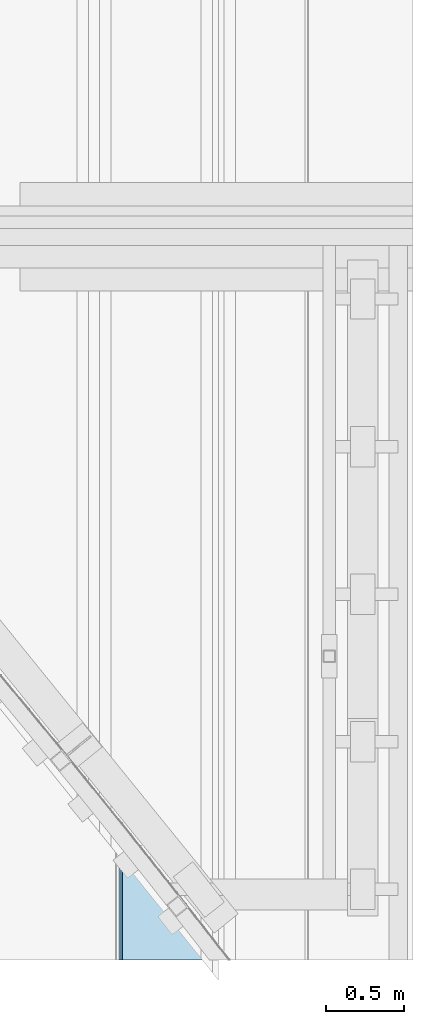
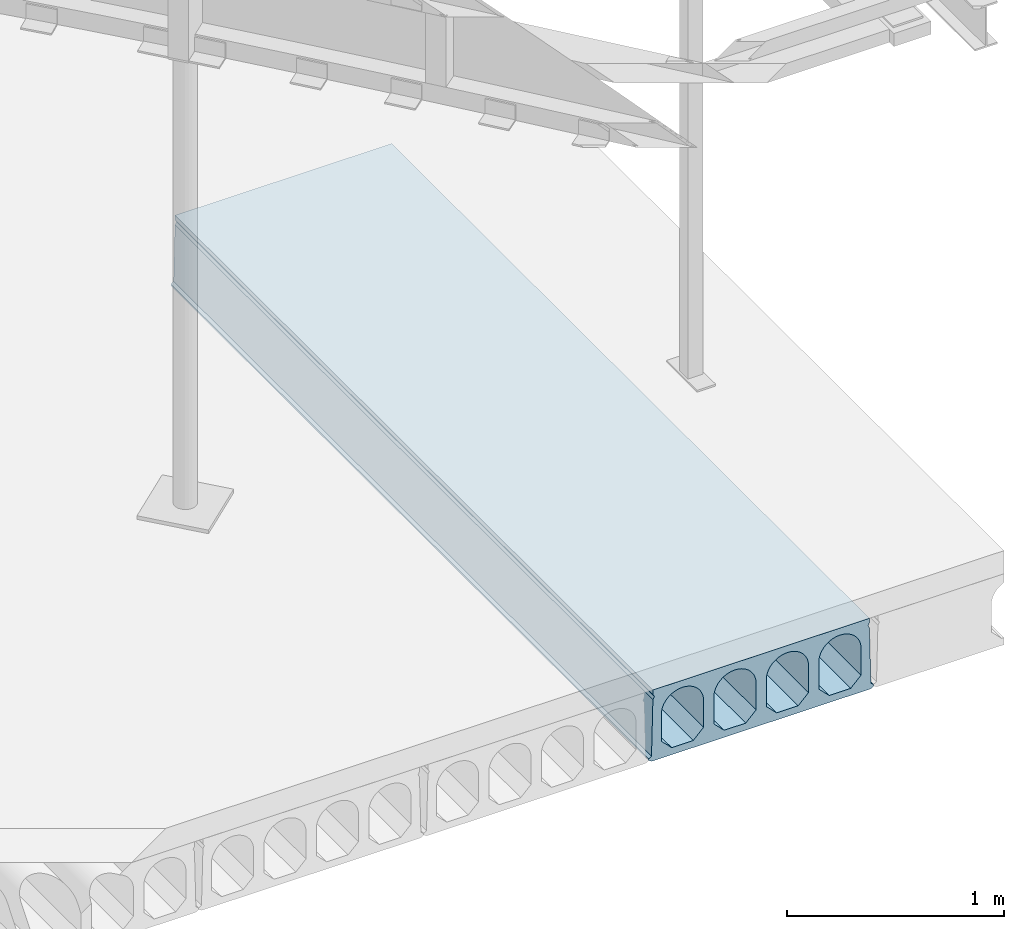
# One storey, part 72 of 98: 1 slab.
"""IFC2X3 building model written with IfcOpenShell, lengths in millimetres."""

from ifc_helpers import new_model, entity, si_unit, converted_unit, derived_unit, direction, frame, origin_with_axes, place, context, subcontext, project, spatial, faceted_brep, type_object, element, save


model = new_model("IFC2X3")

# Units and contexts
model_context = context("Model", 3, precision=0.01, world=frame((0.0, 4.29681676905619e-09, 0.0)), true_north=direction((4.01073788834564e-13, 1.0)))
plan_context = context("Plan", 3, precision=0.01, world=frame((0.0, 4.29681676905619e-09, 0.0)), true_north=direction((4.01073788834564e-13, 1.0)))
body_context = subcontext(model_context, "Body", "Model", "MODEL_VIEW")
ifc_project = project(units=[converted_unit("PLANEANGLEUNIT", "DEGREE", entity("IfcPositiveLengthMeasure", 0.0174532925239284), si_unit("PLANEANGLEUNIT", "RADIAN"), dimensions=[0, 0, 0, 0, 0, 0, 0]), si_unit("AREAUNIT", "SQUARE_METRE"), si_unit("LENGTHUNIT", "METRE", prefix="MILLI"), si_unit("MASSUNIT", "GRAM", prefix="KILO"), si_unit("POWERUNIT", "WATT"), si_unit("PRESSUREUNIT", "PASCAL"), si_unit("FORCEUNIT", "NEWTON", prefix="KILO"), si_unit("ELECTRICCURRENTUNIT", "AMPERE"), si_unit("THERMODYNAMICTEMPERATUREUNIT", "DEGREE_CELSIUS"), si_unit("TIMEUNIT", "SECOND"), si_unit("VOLUMEUNIT", "CUBIC_METRE"), derived_unit("LINEARVELOCITYUNIT", [(si_unit("LENGTHUNIT", "METRE"), 1), (si_unit("TIMEUNIT", "SECOND"), -1)]), derived_unit("VOLUMETRICFLOWRATEUNIT", [(si_unit("VOLUMEUNIT", "CUBIC_METRE"), 1), (si_unit("TIMEUNIT", "SECOND"), -1)]), derived_unit("THERMALTRANSMITTANCEUNIT", [(si_unit("POWERUNIT", "WATT"), 1), (si_unit("THERMODYNAMICTEMPERATUREUNIT", "KELVIN"), -1), (si_unit("AREAUNIT", "SQUARE_METRE"), -1)])], contexts=[model_context, plan_context])

# Site, building, storey
site_placement = place(None, frame((0.0, -4.29681676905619e-09, 0.0), z_axis=(0.0, 0.0, 1.0), x_axis=(1.0, 0.0, 0.0)))
site = spatial("IfcSite", under=ifc_project, at=site_placement, Name="Gardermoen", CompositionType="ELEMENT")
building_placement = place(site_placement, frame((0.0, 4.29681676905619e-09, 0.0), z_axis=(0.0, 0.0, 1.0), x_axis=(1.0, 0.0, 0.0)))
building = spatial("IfcBuilding", under=site, at=building_placement, Name="TS", CompositionType="ELEMENT")
storey_placement = place(building_placement, origin_with_axes())
storey = spatial("IfcBuildingStorey", under=building, at=storey_placement, Name="D", CompositionType="ELEMENT", Elevation=0.0)

# Slab
slab_type = type_object("IfcSlabType", Name="HD400", PredefinedType="NOTDEFINED")
slab_placement = place(storey_placement, frame((530799.999766, 396739.995625, 203600.0), z_axis=(0.0, 0.0, 1.0), x_axis=(0.0, 1.0, 0.0)))
element("IfcSlab", 1, at=slab_placement, inside=storey, type_object=slab_type, Name="HULLDEKKE", ObjectType="HD400", PredefinedType="FLOOR", context=body_context, shape_type="Brep", body=[
    faceted_brep([(4105.68103395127, 600.0, -180.0), (4105.68103395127, 600.0, -190.0), (8520.0, 600.0, -190.0), (8520.0, 600.0, -180.0), (4105.68103395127, 585.0, -170.0), (8520.0, 585.0, -170.0), (4105.68103395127, 577.5, 145.0), (8520.0, 577.5, 145.0), (4105.68103395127, 570.0, 160.0), (8520.0, 570.0, 160.0), (4105.68103395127, 577.5, 175.0), (8520.0, 577.5, 175.0), (4105.68103395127, 577.5, 200.0), (8520.0, 577.5, 200.0), (4105.68103395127, -577.5, 200.0), (8520.0, -577.5, 200.0), (4105.68103395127, -577.5, 175.0), (8520.0, -577.5, 175.0), (4105.68103395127, -570.0, 160.0), (8520.0, -570.0, 160.0), (4105.68103395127, -577.5, 145.0), (8520.0, -577.5, 145.0), (4105.68103395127, -585.0, -170.0), (8520.0, -585.0, -170.0), (4105.68103395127, -600.0, -180.0), (8520.0, -600.0, -180.0), (4105.68103395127, -600.0, -190.0), (8520.0, -600.0, -190.0), (4105.68103395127, -583.380004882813, -200.0), (8520.0, -583.380004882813, -200.0), (4105.68103395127, 583.380004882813, -200.0), (8520.0, 583.380004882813, -200.0), (4105.68103395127, -477.5, -160.0), (4105.68103395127, -362.5, -160.0), (8520.0, -362.5, -160.0), (8520.0, -477.5, -160.0), (4105.68103395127, -532.5, -105.0), (8520.0, -532.5, -105.0), (4105.68103395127, -532.5, 47.5), (8520.0, -532.5, 47.5), (4105.68103395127, -532.115755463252, 56.7901763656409), (8520.0, -532.115755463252, 56.7901763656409), (4105.68103395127, -530.965646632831, 66.0168914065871), (8520.0, -530.965646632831, 66.0168914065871), (4105.68103395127, -529.057529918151, 75.1171173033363), (8520.0, -529.057529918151, 75.1171173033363), (4105.68103395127, -526.404439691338, 84.028690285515), (8520.0, -526.404439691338, 84.028690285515), (4105.68103395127, -523.024499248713, 92.6907352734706), (8520.0, -523.024499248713, 92.6907352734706), (4105.68103395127, -518.940797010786, 101.044081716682), (8520.0, -518.940797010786, 101.044081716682), (4105.68103395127, -514.181228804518, 109.031667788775), (8520.0, -514.181228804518, 109.031667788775), (4105.68103395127, -508.778307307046, 116.598930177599), (8520.0, -508.778307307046, 116.598930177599), (4105.68103395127, -502.768939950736, 123.694176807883), (8520.0, -502.768939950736, 123.694176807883), (4105.68103395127, -496.194176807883, 130.268939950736), (8520.0, -496.194176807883, 130.268939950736), (4105.68103395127, -489.098930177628, 136.278307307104), (8520.0, -489.098930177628, 136.278307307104), (4105.68103395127, -481.531667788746, 141.681228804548), (8520.0, -481.531667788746, 141.681228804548), (4105.68103395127, -473.544081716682, 146.440797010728), (8520.0, -473.544081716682, 146.440797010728), (4105.68103395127, -465.190735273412, 150.524499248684), (8520.0, -465.190735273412, 150.524499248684), (4105.68103395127, -456.528690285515, 153.904439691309), (8520.0, -456.528690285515, 153.904439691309), (4105.68103395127, -447.617117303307, 156.55752991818), (8520.0, -447.617117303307, 156.55752991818), (4105.68103395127, -438.516891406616, 158.465646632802), (8520.0, -438.516891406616, 158.465646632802), (4105.68103395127, -429.290176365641, 159.615755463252), (8520.0, -429.290176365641, 159.615755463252), (4105.68103395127, -420.0, 160.0), (8520.0, -420.0, 160.0), (4105.68103395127, -410.709823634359, 159.615755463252), (8520.0, -410.709823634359, 159.615755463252), (4105.68103395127, -401.483108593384, 158.465646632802), (8520.0, -401.483108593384, 158.465646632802), (4105.68103395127, -392.382882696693, 156.55752991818), (8520.0, -392.382882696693, 156.55752991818), (4105.68103395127, -383.471309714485, 153.904439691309), (8520.0, -383.471309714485, 153.904439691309), (4105.68103395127, -374.809264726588, 150.524499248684), (8520.0, -374.809264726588, 150.524499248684), (4105.68103395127, -366.455918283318, 146.440797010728), (8520.0, -366.455918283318, 146.440797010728), (4105.68103395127, -358.468332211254, 141.681228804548), (8520.0, -358.468332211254, 141.681228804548), (4105.68103395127, -350.901069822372, 136.278307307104), (8520.0, -350.901069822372, 136.278307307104), (4105.68103395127, -343.805823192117, 130.268939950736), (8520.0, -343.805823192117, 130.268939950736), (4105.68103395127, -337.231060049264, 123.694176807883), (8520.0, -337.231060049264, 123.694176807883), (4105.68103395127, -331.221692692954, 116.598930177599), (8520.0, -331.221692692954, 116.598930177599), (4105.68103395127, -325.818771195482, 109.031667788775), (8520.0, -325.818771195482, 109.031667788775), (4105.68103395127, -321.059202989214, 101.044081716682), (8520.0, -321.059202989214, 101.044081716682), (4105.68103395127, -316.975500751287, 92.6907352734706), (8520.0, -316.975500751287, 92.6907352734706), (4105.68103395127, -313.595560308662, 84.028690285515), (8520.0, -313.595560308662, 84.028690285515), (4105.68103395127, -310.942470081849, 75.1171173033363), (8520.0, -310.942470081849, 75.1171173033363), (4105.68103395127, -309.034353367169, 66.0168914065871), (8520.0, -309.034353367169, 66.0168914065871), (4105.68103395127, -307.884244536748, 56.7901763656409), (8520.0, -307.884244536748, 56.7901763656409), (4105.68103395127, -307.5, 47.5), (8520.0, -307.5, 47.5), (4105.68103395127, -307.5, -105.0), (8520.0, -307.5, -105.0), (4105.68103395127, -197.5, -160.0), (4105.68103395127, -82.5, -160.0), (8520.0, -82.5, -160.0), (8520.0, -197.5, -160.0), (4105.68103395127, -252.5, -105.0), (8520.0, -252.5, -105.0), (4105.68103395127, -252.5, 47.5), (8520.0, -252.5, 47.5), (4105.68103395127, -252.115755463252, 56.7901763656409), (8520.0, -252.115755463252, 56.7901763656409), (4105.68103395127, -250.965646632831, 66.0168914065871), (8520.0, -250.965646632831, 66.0168914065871), (4105.68103395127, -249.057529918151, 75.1171173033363), (8520.0, -249.057529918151, 75.1171173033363), (4105.68103395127, -246.404439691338, 84.028690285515), (8520.0, -246.404439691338, 84.028690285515), (4105.68103395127, -243.024499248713, 92.6907352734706), (8520.0, -243.024499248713, 92.6907352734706), (4105.68103395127, -238.940797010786, 101.044081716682), (8520.0, -238.940797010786, 101.044081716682), (4105.68103395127, -234.181228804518, 109.031667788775), (8520.0, -234.181228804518, 109.031667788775), (4105.68103395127, -228.778307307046, 116.598930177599), (8520.0, -228.778307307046, 116.598930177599), (4105.68103395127, -222.768939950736, 123.694176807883), (8520.0, -222.768939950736, 123.694176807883), (4105.68103395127, -216.194176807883, 130.268939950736), (8520.0, -216.194176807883, 130.268939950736), (4105.68103395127, -209.098930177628, 136.278307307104), (8520.0, -209.098930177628, 136.278307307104), (4105.68103395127, -201.531667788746, 141.681228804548), (8520.0, -201.531667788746, 141.681228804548), (4105.68103395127, -193.544081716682, 146.440797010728), (8520.0, -193.544081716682, 146.440797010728), (4105.68103395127, -185.190735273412, 150.524499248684), (8520.0, -185.190735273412, 150.524499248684), (4105.68103395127, -176.528690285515, 153.904439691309), (8520.0, -176.528690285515, 153.904439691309), (4105.68103395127, -167.617117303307, 156.55752991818), (8520.0, -167.617117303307, 156.55752991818), (4105.68103395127, -158.516891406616, 158.465646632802), (8520.0, -158.516891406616, 158.465646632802), (4105.68103395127, -149.290176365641, 159.615755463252), (8520.0, -149.290176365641, 159.615755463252), (4105.68103395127, -140.0, 160.0), (8520.0, -140.0, 160.0), (4105.68103395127, -130.709823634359, 159.615755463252), (8520.0, -130.709823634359, 159.615755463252), (4105.68103395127, -121.483108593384, 158.465646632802), (8520.0, -121.483108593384, 158.465646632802), (4105.68103395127, -112.382882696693, 156.55752991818), (8520.0, -112.382882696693, 156.55752991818), (4105.68103395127, -103.471309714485, 153.904439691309), (8520.0, -103.471309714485, 153.904439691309), (4105.68103395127, -94.8092647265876, 150.524499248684), (8520.0, -94.8092647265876, 150.524499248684), (4105.68103395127, -86.4559182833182, 146.440797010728), (8520.0, -86.4559182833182, 146.440797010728), (4105.68103395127, -78.4683322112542, 141.681228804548), (8520.0, -78.4683322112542, 141.681228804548), (4105.68103395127, -70.9010698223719, 136.278307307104), (8520.0, -70.9010698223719, 136.278307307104), (4105.68103395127, -63.8058231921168, 130.268939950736), (8520.0, -63.8058231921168, 130.268939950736), (4105.68103395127, -57.2310600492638, 123.694176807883), (8520.0, -57.2310600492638, 123.694176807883), (4105.68103395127, -51.2216926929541, 116.598930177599), (8520.0, -51.2216926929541, 116.598930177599), (4105.68103395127, -45.8187711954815, 109.031667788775), (8520.0, -45.8187711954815, 109.031667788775), (4105.68103395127, -41.0592029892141, 101.044081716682), (8520.0, -41.0592029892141, 101.044081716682), (4105.68103395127, -36.9755007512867, 92.6907352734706), (8520.0, -36.9755007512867, 92.6907352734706), (4105.68103395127, -33.5955603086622, 84.028690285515), (8520.0, -33.5955603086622, 84.028690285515), (4105.68103395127, -30.942470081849, 75.1171173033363), (8520.0, -30.942470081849, 75.1171173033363), (4105.68103395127, -29.0343533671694, 66.0168914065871), (8520.0, -29.0343533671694, 66.0168914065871), (4105.68103395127, -27.8842445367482, 56.7901763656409), (8520.0, -27.8842445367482, 56.7901763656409), (4105.68103395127, -27.5, 47.5), (8520.0, -27.5, 47.5), (4105.68103395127, -27.5, -105.0), (8520.0, -27.5, -105.0), (4105.68103395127, 82.5, -160.0), (4105.68103395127, 197.5, -160.0), (8520.0, 197.5, -160.0), (8520.0, 82.5, -160.0), (4105.68103395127, 27.5, -105.0), (8520.0, 27.5, -105.0), (4105.68103395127, 27.5, 47.5), (8520.0, 27.5, 47.5), (4105.68103395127, 27.8842445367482, 56.7901763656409), (8520.0, 27.8842445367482, 56.7901763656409), (4105.68103395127, 29.0343533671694, 66.0168914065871), (8520.0, 29.0343533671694, 66.0168914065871), (4105.68103395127, 30.942470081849, 75.1171173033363), (8520.0, 30.942470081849, 75.1171173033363), (4105.68103395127, 33.5955603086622, 84.028690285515), (8520.0, 33.5955603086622, 84.028690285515), (4105.68103395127, 36.9755007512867, 92.6907352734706), (8520.0, 36.9755007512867, 92.6907352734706), (4105.68103395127, 41.0592029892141, 101.044081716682), (8520.0, 41.0592029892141, 101.044081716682), (4105.68103395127, 45.8187711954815, 109.031667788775), (8520.0, 45.8187711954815, 109.031667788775), (4105.68103395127, 51.2216926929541, 116.598930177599), (8520.0, 51.2216926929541, 116.598930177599), (4105.68103395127, 57.2310600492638, 123.694176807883), (8520.0, 57.2310600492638, 123.694176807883), (4105.68103395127, 63.8058231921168, 130.268939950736), (8520.0, 63.8058231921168, 130.268939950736), (4105.68103395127, 70.9010698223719, 136.278307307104), (8520.0, 70.9010698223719, 136.278307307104), (4105.68103395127, 78.4683322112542, 141.681228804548), (8520.0, 78.4683322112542, 141.681228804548), (4105.68103395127, 86.4559182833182, 146.440797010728), (8520.0, 86.4559182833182, 146.440797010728), (4105.68103395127, 94.8092647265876, 150.524499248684), (8520.0, 94.8092647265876, 150.524499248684), (4105.68103395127, 103.471309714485, 153.904439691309), (8520.0, 103.471309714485, 153.904439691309), (4105.68103395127, 112.382882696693, 156.55752991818), (8520.0, 112.382882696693, 156.55752991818), (4105.68103395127, 121.483108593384, 158.465646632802), (8520.0, 121.483108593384, 158.465646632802), (4105.68103395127, 130.709823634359, 159.615755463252), (8520.0, 130.709823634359, 159.615755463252), (4105.68103395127, 140.0, 160.0), (8520.0, 140.0, 160.0), (4105.68103395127, 149.290176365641, 159.615755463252), (8520.0, 149.290176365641, 159.615755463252), (4105.68103395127, 158.516891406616, 158.465646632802), (8520.0, 158.516891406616, 158.465646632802), (4105.68103395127, 167.617117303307, 156.55752991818), (8520.0, 167.617117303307, 156.55752991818), (4105.68103395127, 176.528690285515, 153.904439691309), (8520.0, 176.528690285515, 153.904439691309), (4105.68103395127, 185.190735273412, 150.524499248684), (8520.0, 185.190735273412, 150.524499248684), (4105.68103395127, 193.544081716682, 146.440797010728), (8520.0, 193.544081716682, 146.440797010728), (4105.68103395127, 201.531667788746, 141.681228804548), (8520.0, 201.531667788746, 141.681228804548), (4105.68103395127, 209.098930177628, 136.278307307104), (8520.0, 209.098930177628, 136.278307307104), (4105.68103395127, 216.194176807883, 130.268939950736), (8520.0, 216.194176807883, 130.268939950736), (4105.68103395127, 222.768939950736, 123.694176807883), (8520.0, 222.768939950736, 123.694176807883), (4105.68103395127, 228.778307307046, 116.598930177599), (8520.0, 228.778307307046, 116.598930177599), (4105.68103395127, 234.181228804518, 109.031667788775), (8520.0, 234.181228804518, 109.031667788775), (4105.68103395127, 238.940797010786, 101.044081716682), (8520.0, 238.940797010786, 101.044081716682), (4105.68103395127, 243.024499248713, 92.6907352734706), (8520.0, 243.024499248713, 92.6907352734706), (4105.68103395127, 246.404439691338, 84.028690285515), (8520.0, 246.404439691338, 84.028690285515), (4105.68103395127, 249.057529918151, 75.1171173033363), (8520.0, 249.057529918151, 75.1171173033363), (4105.68103395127, 250.965646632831, 66.0168914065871), (8520.0, 250.965646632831, 66.0168914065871), (4105.68103395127, 252.115755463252, 56.7901763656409), (8520.0, 252.115755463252, 56.7901763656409), (4105.68103395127, 252.5, 47.5), (8520.0, 252.5, 47.5), (4105.68103395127, 252.5, -105.0), (8520.0, 252.5, -105.0), (4105.68103395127, 362.5, -160.0), (4105.68103395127, 477.5, -160.0), (8520.0, 477.5, -160.0), (8520.0, 362.5, -160.0), (4105.68103395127, 307.5, -105.0), (8520.0, 307.5, -105.0), (4105.68103395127, 307.5, 47.5), (8520.0, 307.5, 47.5), (4105.68103395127, 307.884244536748, 56.7901763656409), (8520.0, 307.884244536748, 56.7901763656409), (4105.68103395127, 309.034353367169, 66.0168914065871), (8520.0, 309.034353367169, 66.0168914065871), (4105.68103395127, 310.942470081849, 75.1171173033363), (8520.0, 310.942470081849, 75.1171173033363), (4105.68103395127, 313.595560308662, 84.028690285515), (8520.0, 313.595560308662, 84.028690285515), (4105.68103395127, 316.975500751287, 92.6907352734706), (8520.0, 316.975500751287, 92.6907352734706), (4105.68103395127, 321.059202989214, 101.044081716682), (8520.0, 321.059202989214, 101.044081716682), (4105.68103395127, 325.818771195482, 109.031667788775), (8520.0, 325.818771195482, 109.031667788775), (4105.68103395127, 331.221692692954, 116.598930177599), (8520.0, 331.221692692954, 116.598930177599), (4105.68103395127, 337.231060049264, 123.694176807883), (8520.0, 337.231060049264, 123.694176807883), (4105.68103395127, 343.805823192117, 130.268939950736), (8520.0, 343.805823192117, 130.268939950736), (4105.68103395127, 350.901069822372, 136.278307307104), (8520.0, 350.901069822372, 136.278307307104), (4105.68103395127, 358.468332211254, 141.681228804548), (8520.0, 358.468332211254, 141.681228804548), (4105.68103395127, 366.455918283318, 146.440797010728), (8520.0, 366.455918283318, 146.440797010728), (4105.68103395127, 374.809264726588, 150.524499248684), (8520.0, 374.809264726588, 150.524499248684), (4105.68103395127, 383.471309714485, 153.904439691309), (8520.0, 383.471309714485, 153.904439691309), (4105.68103395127, 392.382882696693, 156.55752991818), (8520.0, 392.382882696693, 156.55752991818), (4105.68103395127, 401.483108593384, 158.465646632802), (8520.0, 401.483108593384, 158.465646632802), (4105.68103395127, 410.709823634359, 159.615755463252), (8520.0, 410.709823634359, 159.615755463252), (4105.68103395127, 420.0, 160.0), (8520.0, 420.0, 160.0), (4105.68103395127, 429.290176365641, 159.615755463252), (8520.0, 429.290176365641, 159.615755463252), (4105.68103395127, 438.516891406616, 158.465646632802), (8520.0, 438.516891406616, 158.465646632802), (4105.68103395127, 447.617117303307, 156.55752991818), (8520.0, 447.617117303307, 156.55752991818), (4105.68103395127, 456.528690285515, 153.904439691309), (8520.0, 456.528690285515, 153.904439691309), (4105.68103395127, 465.190735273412, 150.524499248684), (8520.0, 465.190735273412, 150.524499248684), (4105.68103395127, 473.544081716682, 146.440797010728), (8520.0, 473.544081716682, 146.440797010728), (4105.68103395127, 481.531667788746, 141.681228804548), (8520.0, 481.531667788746, 141.681228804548), (4105.68103395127, 489.098930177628, 136.278307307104), (8520.0, 489.098930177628, 136.278307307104), (4105.68103395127, 496.194176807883, 130.268939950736), (8520.0, 496.194176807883, 130.268939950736), (4105.68103395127, 502.768939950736, 123.694176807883), (8520.0, 502.768939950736, 123.694176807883), (4105.68103395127, 508.778307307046, 116.598930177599), (8520.0, 508.778307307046, 116.598930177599), (4105.68103395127, 514.181228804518, 109.031667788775), (8520.0, 514.181228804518, 109.031667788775), (4105.68103395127, 518.940797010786, 101.044081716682), (8520.0, 518.940797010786, 101.044081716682), (4105.68103395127, 523.024499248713, 92.6907352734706), (8520.0, 523.024499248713, 92.6907352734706), (4105.68103395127, 526.404439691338, 84.028690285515), (8520.0, 526.404439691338, 84.028690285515), (4105.68103395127, 529.057529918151, 75.1171173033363), (8520.0, 529.057529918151, 75.1171173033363), (4105.68103395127, 530.965646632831, 66.0168914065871), (8520.0, 530.965646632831, 66.0168914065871), (4105.68103395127, 532.115755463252, 56.7901763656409), (8520.0, 532.115755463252, 56.7901763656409), (4105.68103395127, 532.5, 47.5), (8520.0, 532.5, 47.5), (4105.68103395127, 532.5, -105.0), (8520.0, 532.5, -105.0)], [[[0, 1, 2, 3]], [[4, 0, 3, 5]], [[6, 4, 5, 7]], [[8, 6, 7, 9]], [[10, 8, 9, 11]], [[12, 10, 11, 13]], [[14, 12, 13, 15]], [[16, 14, 15, 17]], [[18, 16, 17, 19]], [[20, 18, 19, 21]], [[22, 20, 21, 23]], [[24, 22, 23, 25]], [[26, 24, 25, 27]], [[28, 26, 27, 29]], [[30, 28, 29, 31]], [[1, 30, 31, 2]], [[32, 33, 34, 35]], [[36, 32, 35, 37]], [[38, 36, 37, 39]], [[40, 38, 39, 41]], [[42, 40, 41, 43]], [[44, 42, 43, 45]], [[46, 44, 45, 47]], [[48, 46, 47, 49]], [[50, 48, 49, 51]], [[52, 50, 51, 53]], [[54, 52, 53, 55]], [[56, 54, 55, 57]], [[58, 56, 57, 59]], [[60, 58, 59, 61]], [[62, 60, 61, 63]], [[64, 62, 63, 65]], [[66, 64, 65, 67]], [[68, 66, 67, 69]], [[70, 68, 69, 71]], [[72, 70, 71, 73]], [[74, 72, 73, 75]], [[76, 74, 75, 77]], [[78, 76, 77, 79]], [[80, 78, 79, 81]], [[82, 80, 81, 83]], [[84, 82, 83, 85]], [[86, 84, 85, 87]], [[88, 86, 87, 89]], [[90, 88, 89, 91]], [[92, 90, 91, 93]], [[94, 92, 93, 95]], [[96, 94, 95, 97]], [[98, 96, 97, 99]], [[100, 98, 99, 101]], [[102, 100, 101, 103]], [[104, 102, 103, 105]], [[106, 104, 105, 107]], [[108, 106, 107, 109]], [[110, 108, 109, 111]], [[112, 110, 111, 113]], [[114, 112, 113, 115]], [[116, 114, 115, 117]], [[33, 116, 117, 34]], [[118, 119, 120, 121]], [[122, 118, 121, 123]], [[124, 122, 123, 125]], [[126, 124, 125, 127]], [[128, 126, 127, 129]], [[130, 128, 129, 131]], [[132, 130, 131, 133]], [[134, 132, 133, 135]], [[136, 134, 135, 137]], [[138, 136, 137, 139]], [[140, 138, 139, 141]], [[142, 140, 141, 143]], [[144, 142, 143, 145]], [[146, 144, 145, 147]], [[148, 146, 147, 149]], [[150, 148, 149, 151]], [[152, 150, 151, 153]], [[154, 152, 153, 155]], [[156, 154, 155, 157]], [[158, 156, 157, 159]], [[160, 158, 159, 161]], [[162, 160, 161, 163]], [[164, 162, 163, 165]], [[166, 164, 165, 167]], [[168, 166, 167, 169]], [[170, 168, 169, 171]], [[172, 170, 171, 173]], [[174, 172, 173, 175]], [[176, 174, 175, 177]], [[178, 176, 177, 179]], [[180, 178, 179, 181]], [[182, 180, 181, 183]], [[184, 182, 183, 185]], [[186, 184, 185, 187]], [[188, 186, 187, 189]], [[190, 188, 189, 191]], [[192, 190, 191, 193]], [[194, 192, 193, 195]], [[196, 194, 195, 197]], [[198, 196, 197, 199]], [[200, 198, 199, 201]], [[202, 200, 201, 203]], [[119, 202, 203, 120]], [[204, 205, 206, 207]], [[208, 204, 207, 209]], [[210, 208, 209, 211]], [[212, 210, 211, 213]], [[214, 212, 213, 215]], [[216, 214, 215, 217]], [[218, 216, 217, 219]], [[220, 218, 219, 221]], [[222, 220, 221, 223]], [[224, 222, 223, 225]], [[226, 224, 225, 227]], [[228, 226, 227, 229]], [[230, 228, 229, 231]], [[232, 230, 231, 233]], [[234, 232, 233, 235]], [[236, 234, 235, 237]], [[238, 236, 237, 239]], [[240, 238, 239, 241]], [[242, 240, 241, 243]], [[244, 242, 243, 245]], [[246, 244, 245, 247]], [[248, 246, 247, 249]], [[250, 248, 249, 251]], [[252, 250, 251, 253]], [[254, 252, 253, 255]], [[256, 254, 255, 257]], [[258, 256, 257, 259]], [[260, 258, 259, 261]], [[262, 260, 261, 263]], [[264, 262, 263, 265]], [[266, 264, 265, 267]], [[268, 266, 267, 269]], [[270, 268, 269, 271]], [[272, 270, 271, 273]], [[274, 272, 273, 275]], [[276, 274, 275, 277]], [[278, 276, 277, 279]], [[280, 278, 279, 281]], [[282, 280, 281, 283]], [[284, 282, 283, 285]], [[286, 284, 285, 287]], [[288, 286, 287, 289]], [[205, 288, 289, 206]], [[290, 291, 292, 293]], [[294, 290, 293, 295]], [[296, 294, 295, 297]], [[298, 296, 297, 299]], [[300, 298, 299, 301]], [[302, 300, 301, 303]], [[304, 302, 303, 305]], [[306, 304, 305, 307]], [[308, 306, 307, 309]], [[310, 308, 309, 311]], [[312, 310, 311, 313]], [[314, 312, 313, 315]], [[316, 314, 315, 317]], [[318, 316, 317, 319]], [[320, 318, 319, 321]], [[322, 320, 321, 323]], [[324, 322, 323, 325]], [[326, 324, 325, 327]], [[328, 326, 327, 329]], [[330, 328, 329, 331]], [[332, 330, 331, 333]], [[334, 332, 333, 335]], [[336, 334, 335, 337]], [[338, 336, 337, 339]], [[340, 338, 339, 341]], [[342, 340, 341, 343]], [[344, 342, 343, 345]], [[346, 344, 345, 347]], [[348, 346, 347, 349]], [[350, 348, 349, 351]], [[352, 350, 351, 353]], [[354, 352, 353, 355]], [[356, 354, 355, 357]], [[358, 356, 357, 359]], [[360, 358, 359, 361]], [[362, 360, 361, 363]], [[364, 362, 363, 365]], [[366, 364, 365, 367]], [[368, 366, 367, 369]], [[370, 368, 369, 371]], [[372, 370, 371, 373]], [[374, 372, 373, 375]], [[291, 374, 375, 292]], [[3, 2, 31, 29, 27, 25, 23, 21, 19, 17, 15, 13, 11, 9, 7, 5], [293, 292, 375, 373, 371, 369, 367, 365, 363, 361, 359, 357, 355, 353, 351, 349, 347, 345, 343, 341, 339, 337, 335, 333, 331, 329, 327, 325, 323, 321, 319, 317, 315, 313, 311, 309, 307, 305, 303, 301, 299, 297, 295], [207, 206, 289, 287, 285, 283, 281, 279, 277, 275, 273, 271, 269, 267, 265, 263, 261, 259, 257, 255, 253, 251, 249, 247, 245, 243, 241, 239, 237, 235, 233, 231, 229, 227, 225, 223, 221, 219, 217, 215, 213, 211, 209], [121, 120, 203, 201, 199, 197, 195, 193, 191, 189, 187, 185, 183, 181, 179, 177, 175, 173, 171, 169, 167, 165, 163, 161, 159, 157, 155, 153, 151, 149, 147, 145, 143, 141, 139, 137, 135, 133, 131, 129, 127, 125, 123], [35, 34, 117, 115, 113, 111, 109, 107, 105, 103, 101, 99, 97, 95, 93, 91, 89, 87, 85, 83, 81, 79, 77, 75, 73, 71, 69, 67, 65, 63, 61, 59, 57, 55, 53, 51, 49, 47, 45, 43, 41, 39, 37]], [[4, 6, 8, 10, 12, 14, 16, 18, 20, 22, 24, 26, 28, 30, 1, 0], [36, 38, 40, 42, 44, 46, 48, 50, 52, 54, 56, 58, 60, 62, 64, 66, 68, 70, 72, 74, 76, 78, 80, 82, 84, 86, 88, 90, 92, 94, 96, 98, 100, 102, 104, 106, 108, 110, 112, 114, 116, 33, 32], [122, 124, 126, 128, 130, 132, 134, 136, 138, 140, 142, 144, 146, 148, 150, 152, 154, 156, 158, 160, 162, 164, 166, 168, 170, 172, 174, 176, 178, 180, 182, 184, 186, 188, 190, 192, 194, 196, 198, 200, 202, 119, 118], [208, 210, 212, 214, 216, 218, 220, 222, 224, 226, 228, 230, 232, 234, 236, 238, 240, 242, 244, 246, 248, 250, 252, 254, 256, 258, 260, 262, 264, 266, 268, 270, 272, 274, 276, 278, 280, 282, 284, 286, 288, 205, 204], [294, 296, 298, 300, 302, 304, 306, 308, 310, 312, 314, 316, 318, 320, 322, 324, 326, 328, 330, 332, 334, 336, 338, 340, 342, 344, 346, 348, 350, 352, 354, 356, 358, 360, 362, 364, 366, 368, 370, 372, 374, 291, 290]]], orient=[[False], [False], [False], [False], [False], [False], [False], [False], [False], [False], [False], [False], [False], [False], [False], [False], [False], [False], [False], [False], [False], [False], [False], [False], [False], [False], [False], [False], [False], [False], [False], [False], [False], [False], [False], [False], [False], [False], [False], [False], [False], [False], [False], [False], [False], [False], [False], [False], [False], [False], [False], [False], [False], [False], [False], [False], [False], [False], [False], [False], [False], [False], [False], [False], [False], [False], [False], [False], [False], [False], [False], [False], [False], [False], [False], [False], [False], [False], [False], [False], [False], [False], [False], [False], [False], [False], [False], [False], [False], [False], [False], [False], [False], [False], [False], [False], [False], [False], [False], [False], [False], [False], [False], [False], [False], [False], [False], [False], [False], [False], [False], [False], [False], [False], [False], [False], [False], [False], [False], [False], [False], [False], [False], [False], [False], [False], [False], [False], [False], [False], [False], [False], [False], [False], [False], [False], [False], [False], [False], [False], [False], [False], [False], [False], [False], [False], [False], [False], [False], [False], [False], [False], [False], [False], [False], [False], [False], [False], [False], [False], [False], [False], [False], [False], [False], [False], [False], [False], [False], [False], [False], [False], [False], [False], [False], [False], [False], [False], [False], [False], [False], [False], [False], [False], [False], [False], [False], [False], [False, False, False, False, False], [False, False, False, False, False]]),
])

save(model, "model.ifc")
